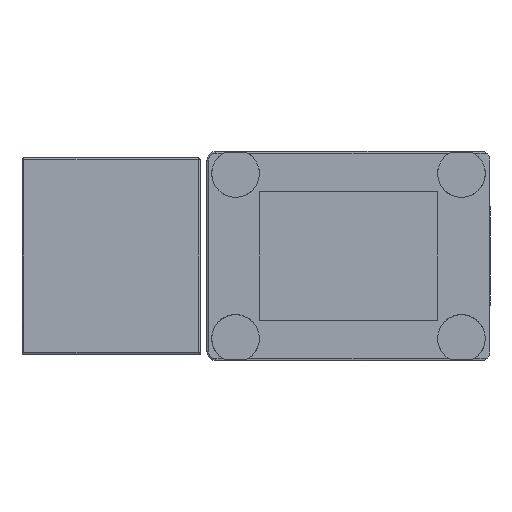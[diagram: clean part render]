
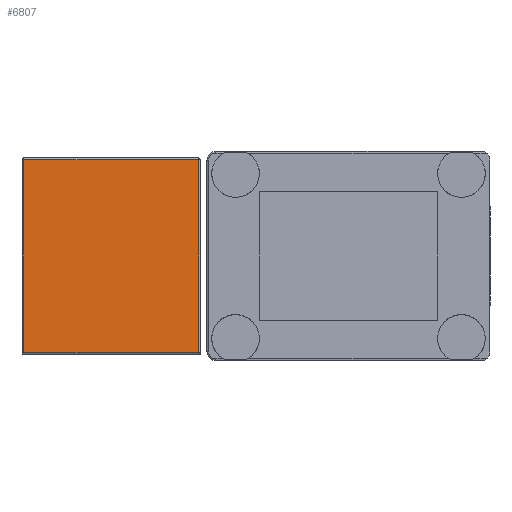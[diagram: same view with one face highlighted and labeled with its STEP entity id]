
A CAD part, left-side view. The second image highlights one B-rep face of the part: STEP entity #6807.
In plain terms, the highlighted planar face has unit normal (-1, 0, 0).
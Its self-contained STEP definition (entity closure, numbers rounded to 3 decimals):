
#498 = LINE ( 'NONE', #4377, #7131 ) ;
#700 = VERTEX_POINT ( 'NONE', #1999 ) ;
#709 = DIRECTION ( 'NONE',  ( 0., 1., 0. ) ) ;
#1860 = CARTESIAN_POINT ( 'NONE',  ( -38., 51.55, -10. ) ) ;
#1999 = CARTESIAN_POINT ( 'NONE',  ( -38., 31.95, -10.8 ) ) ;
#2081 = EDGE_CURVE ( 'NONE', #7418, #7141, #7806, .T. ) ;
#2251 = DIRECTION ( 'NONE',  ( 0., -1., 0. ) ) ;
#2798 = EDGE_CURVE ( 'NONE', #7141, #700, #498, .T. ) ;
#3223 = CARTESIAN_POINT ( 'NONE',  ( -38., 31.95, 10.8 ) ) ;
#3691 = ORIENTED_EDGE ( 'NONE', *, *, #2798, .T. ) ;
#3841 = VERTEX_POINT ( 'NONE', #3223 ) ;
#3976 = PLANE ( 'NONE',  #8020 ) ;
#4173 = EDGE_CURVE ( 'NONE', #700, #3841, #8791, .T. ) ;
#4377 = CARTESIAN_POINT ( 'NONE',  ( -38., 31.75, -10.8 ) ) ;
#4697 = ORIENTED_EDGE ( 'NONE', *, *, #2081, .T. ) ;
#5775 = ORIENTED_EDGE ( 'NONE', *, *, #4173, .T. ) ;
#6153 = CARTESIAN_POINT ( 'NONE',  ( -38., 49.75, -10. ) ) ;
#6688 = CARTESIAN_POINT ( 'NONE',  ( -38., 51.55, 10.8 ) ) ;
#6807 = ADVANCED_FACE ( 'NONE', ( #7165 ), #3976, .T. ) ;
#7028 = VECTOR ( 'NONE', #7504, 1000. ) ;
#7129 = EDGE_CURVE ( 'NONE', #3841, #7418, #7158, .T. ) ;
#7131 = VECTOR ( 'NONE', #2251, 1000. ) ;
#7141 = VERTEX_POINT ( 'NONE', #7163 ) ;
#7158 = LINE ( 'NONE', #7812, #8162 ) ;
#7163 = CARTESIAN_POINT ( 'NONE',  ( -38., 51.55, -10.8 ) ) ;
#7165 = FACE_OUTER_BOUND ( 'NONE', #8737, .T. ) ;
#7418 = VERTEX_POINT ( 'NONE', #6688 ) ;
#7504 = DIRECTION ( 'NONE',  ( 0., 0., -1. ) ) ;
#7767 = CARTESIAN_POINT ( 'NONE',  ( -38., 31.95, -10. ) ) ;
#7806 = LINE ( 'NONE', #1860, #7028 ) ;
#7812 = CARTESIAN_POINT ( 'NONE',  ( -38., 51.75, 10.8 ) ) ;
#8020 = AXIS2_PLACEMENT_3D ( 'NONE', #6153, #8987, #8951 ) ;
#8162 = VECTOR ( 'NONE', #709, 1000. ) ;
#8462 = VECTOR ( 'NONE', #8533, 1000. ) ;
#8533 = DIRECTION ( 'NONE',  ( 0., 0., 1. ) ) ;
#8737 = EDGE_LOOP ( 'NONE', ( #4697, #3691, #5775, #8875 ) ) ;
#8791 = LINE ( 'NONE', #7767, #8462 ) ;
#8875 = ORIENTED_EDGE ( 'NONE', *, *, #7129, .T. ) ;
#8951 = DIRECTION ( 'NONE',  ( 0., 0., 1. ) ) ;
#8987 = DIRECTION ( 'NONE',  ( -1., 0., 0. ) ) ;
